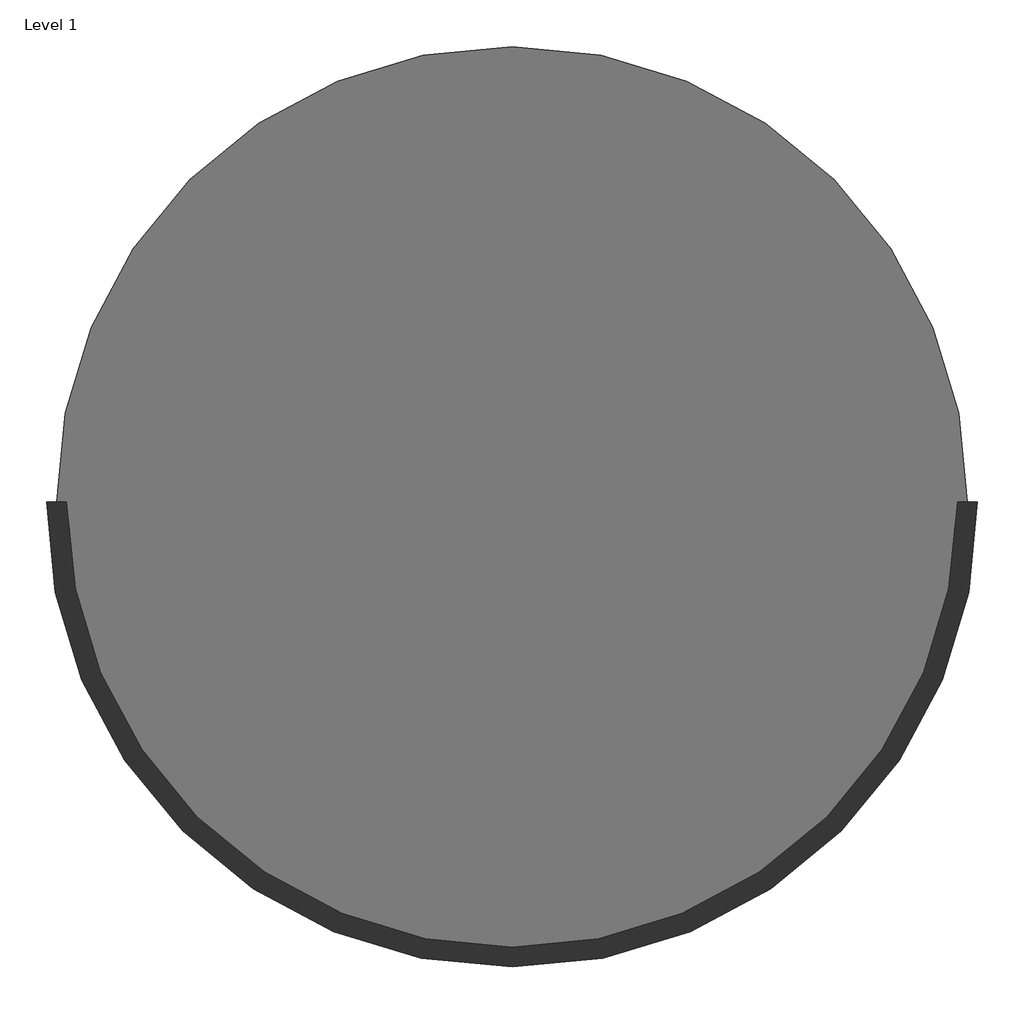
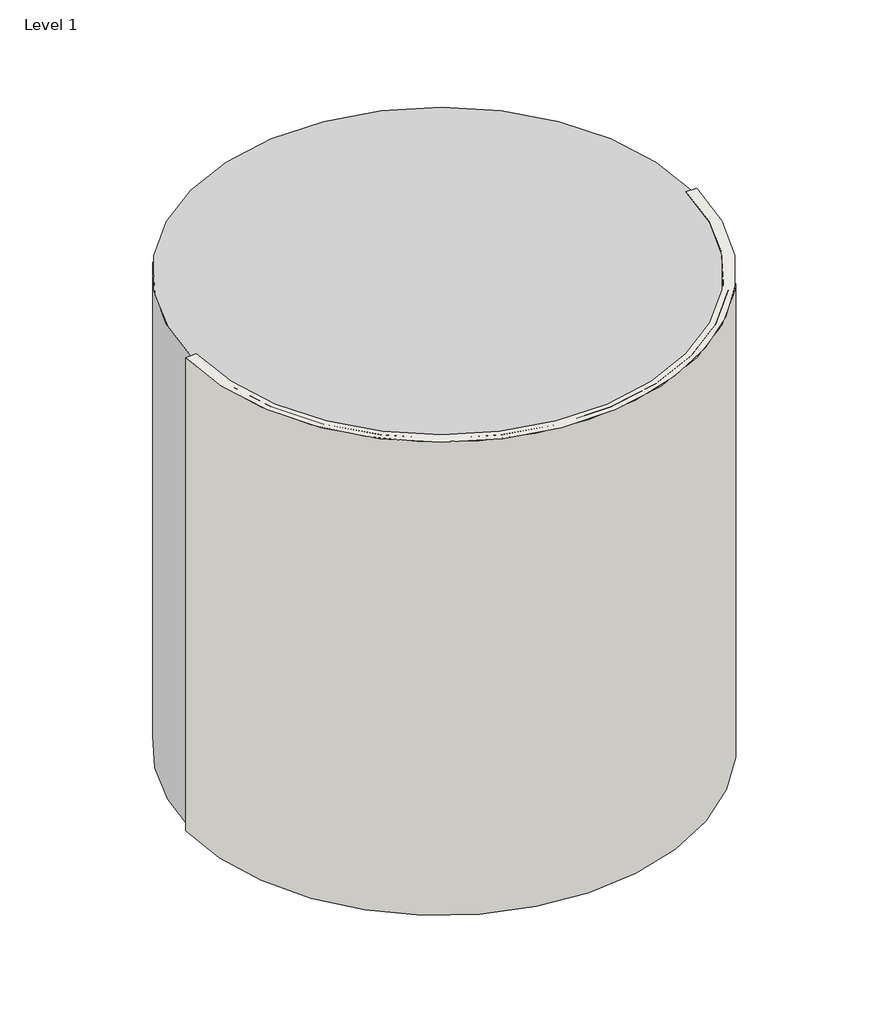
# One storey: 1 proxy, 1 wall.
"""IFC4 building model written with IfcOpenShell, lengths in millimetres."""

from ifc_helpers import new_model, si_unit, point, frame_2d, origin, origin_with_axes, place, context, project, spatial, polyline, circle_curve, trimmed, segment, composite_curve, outline, extrude, element, save

model = new_model("IFC4")

# Units and contexts
model_context = context("Model", 3, world=origin())
ifc_project = project(units=[si_unit("LENGTHUNIT", "METRE", prefix="MILLI")], contexts=[model_context])

# Site, building, storey
site = spatial("IfcSite", under=ifc_project)
building = spatial("IfcBuilding", under=site)
storey = spatial("IfcBuildingStorey", under=building, Name="Level 1", Elevation=0.0)

# Proxy
placement = place(None, origin())
element("IfcBuildingElementProxy", 1, Name="Cylinder : Cylinder", ObjectType="Cylinder : Cylinder", at=placement, inside=storey, context=model_context, shape_type="SweptSolid", body=[
    extrude(outline(composite_curve([segment(trimmed(circle_curve(frame_2d((2764.6256269, 1155.6477242)), 4572.0), [point((-1807.3743731, 1155.6477242))], [point((7336.6256269, 1155.6477242))], False, "CARTESIAN"), True, "CONTINUOUS"), segment(trimmed(circle_curve(frame_2d((2764.6256269, 1155.6477242)), 4572.0), [point((7336.6256269, 1155.6477242))], [point((-1807.3743731, 1155.6477242))], False, "CARTESIAN"), True, "CONTINUOUS")], self_intersect=False)), origin_with_axes(), (0.0, 0.0, 1.0), 9144.0),
])

# Wall
element("IfcWall", 2, ObjectType="Wall 1", at=placement, inside=storey, context=model_context, shape_type="SweptSolid", body=[
    extrude(outline(composite_curve([segment(trimmed(circle_curve(frame_2d((2764.6256269, 1155.6477242)), 4672.0), [point((7436.6256269, 1155.6477242))], [point((-1907.3743731, 1155.6477242))], False, "CARTESIAN"), True, "CONTINUOUS"), segment(polyline([(-1907.3743731, 1155.6477242), (-1707.3743731, 1155.6477242)]), True, "CONTINUOUS"), segment(trimmed(circle_curve(frame_2d((2764.6256269, 1155.6477242)), 4472.0), [point((-1707.3743731, 1155.6477242))], [point((7236.6256269, 1155.6477242))], True, "CARTESIAN"), True, "CONTINUOUS"), segment(polyline([(7236.6256269, 1155.6477242), (7436.6256269, 1155.6477242)]), True, "CONTINUOUS")], self_intersect=False)), origin_with_axes(), (0.0, 0.0, 1.0), 9144.0),
])

save(model, "model.ifc")
